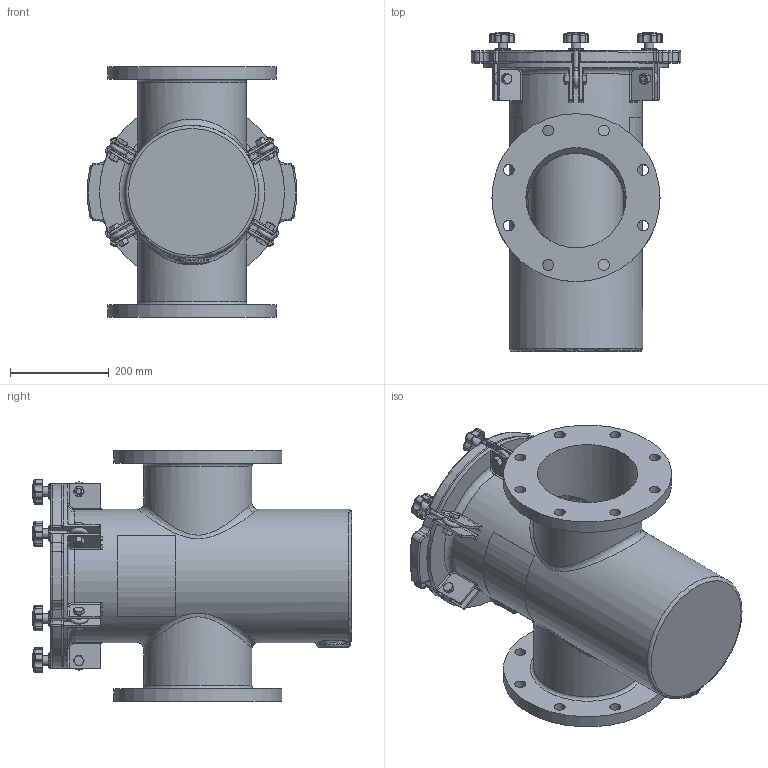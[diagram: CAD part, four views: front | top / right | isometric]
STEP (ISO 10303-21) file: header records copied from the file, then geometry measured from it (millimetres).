
FILE_DESCRIPTION(/* description */ ('STRAINER BODY'),/* implementation_level */ '2;1');
FILE_NAME(/* name */ '\\chntshnas1\IP_PUMPS\NeptuneBenson\Project Execution\WIP\Ready for delivery - Do not Disturb -Updated with metric Flange\Workspace\FG Straight Strainer\150NBFG08X08-MM.stp',/* time_stamp */ '2016-10-18T19:44:29+05:00',/* author */ ('20076253'),/* organization */ (''),/* preprocessor_version */ 'ST-DEVELOPER v16.1',/* originating_system */ 'Autodesk Inventor 2016',/* authorisation */ '');
FILE_SCHEMA (('AUTOMOTIVE_DESIGN { 1 0 10303 214 3 1 1 }'));
Length unit declared in the file: inch
Products named in the file (18): NBFGBODY08X08MM; 150NBCVR48R1; 150NBGSK48R1; Perforated Basket 10in; Bride (Ring) 10in; Baffle 10in; Handle 10in; Bottom Strainer 10in; NBBSK08T316; Nut- 1_2  UNC; Bolt-1_2 x 1 1_2  UNC; EyeBolt; Washer; Knob M10; Securing Assembly For FG without Brace; Label for 10.625 inch (Right); Label for 10.625 inch (Left); Guardian FG H&L Strainer (Metric)
Assembly tree (22 placements, depth 3):
  Guardian FG H&L Strainer (Metric)
    NBFGBODY08X08MM
    150NBCVR48R1
    150NBGSK48R1
    NBBSK08T316
      Perforated Basket 10in
      Bride (Ring) 10in
      Baffle 10in
      Handle 10in
      Bottom Strainer 10in
    Securing Assembly For FG without Brace  x6
      Nut- 1_2  UNC
      Bolt-1_2 x 1 1_2  UNC
      EyeBolt
      Washer
      Knob M10
    Label for 10.625 inch (Right)
    Label for 10.625 inch (Left)
Bounding box: 424.18 x 646.2 x 508 mm (x, y, z)
Volume: 12345851.8 mm3; surface area: 2868274.5 mm2
Topology: 40 solids, 40 shells, 1275 faces, 2919 edges, 1724 vertices
Faces by surface type: cylinder 466, plane 330, cone 138, torus 124, bspline 115, sphere 102
Full cylindrical faces by diameter (mm): 3.175 x10, 6.35 x1, 8.382 x6, 9.525 x12, 10.592 x6, 12.7 x6, 15.875 x12, 19 x12, 19.05 x6, 22.098 x16, 22.809 x1, 31.75 x6, 187.325 x2, 190.5 x1, 193.04 x1, 203.2 x2, 219.075 x2, 254 x2, 266.7 x1, 269.875 x1, 276.225 x1, 311.15 x1, 317.5 x1, 340.36 x2
Entity records: 26172 total; most frequent: CARTESIAN_POINT 10128, DIRECTION 3312, ORIENTED_EDGE 3016, EDGE_CURVE 1508, AXIS2_PLACEMENT_3D 1400, VERTEX_POINT 954, EDGE_LOOP 860, CIRCLE 708
